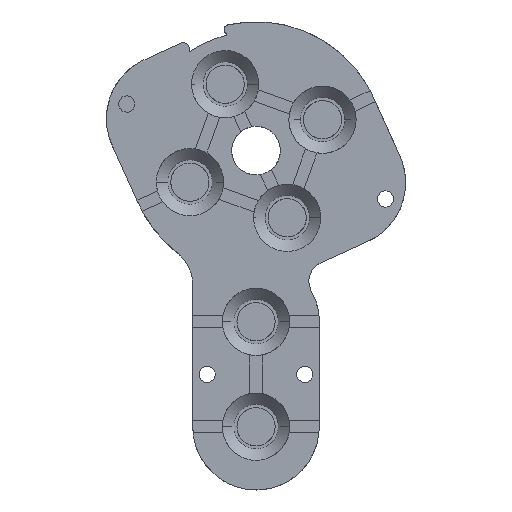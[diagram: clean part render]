
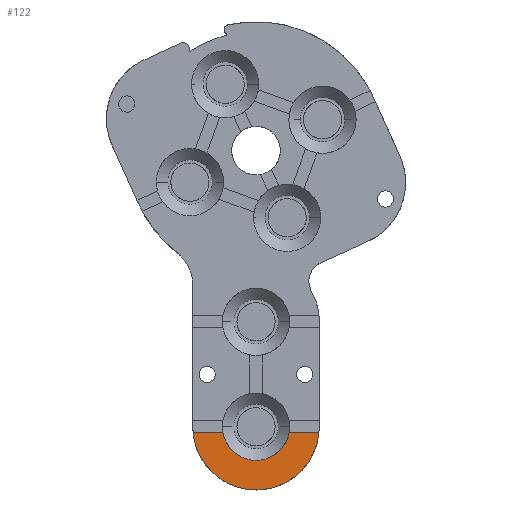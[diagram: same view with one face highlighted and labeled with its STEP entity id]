
A CAD part, top view. The second image highlights one B-rep face of the part: STEP entity #122.
In plain terms, the highlighted planar face has unit normal (0, 0, 1).
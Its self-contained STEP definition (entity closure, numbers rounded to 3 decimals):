
#122=ADVANCED_FACE('',(#296),#2613,.T.);
#296=FACE_OUTER_BOUND('',#483,.T.);
#483=EDGE_LOOP('',(#946,#947,#948,#949));
#946=ORIENTED_EDGE('',*,*,#1686,.F.);
#947=ORIENTED_EDGE('',*,*,#1644,.F.);
#948=ORIENTED_EDGE('',*,*,#1643,.F.);
#949=ORIENTED_EDGE('',*,*,#1642,.F.);
#1642=EDGE_CURVE('',#2482,#2483,#2230,.T.);
#1643=EDGE_CURVE('',#2483,#2484,#2015,.T.);
#1644=EDGE_CURVE('',#2484,#2485,#2231,.T.);
#1686=EDGE_CURVE('',#2485,#2482,#2024,.T.);
#2015=(
BOUNDED_CURVE()
B_SPLINE_CURVE(2,(#5280,#5281,#5282,#5283,#5284),.UNSPECIFIED.,.F.,.F.)
B_SPLINE_CURVE_WITH_KNOTS((3,2,3),(0.,14.166,28.331),
 .UNSPECIFIED.)
CURVE()
GEOMETRIC_REPRESENTATION_ITEM()
RATIONAL_B_SPLINE_CURVE((1.,0.74,1.,0.74,1.))
REPRESENTATION_ITEM('')
);
#2024=(
BOUNDED_CURVE()
B_SPLINE_CURVE(2,(#5370,#5371,#5372,#5373,#5374),.UNSPECIFIED.,.F.,.F.)
B_SPLINE_CURVE_WITH_KNOTS((3,2,3),(-13.828,-6.914,
0.),.UNSPECIFIED.)
CURVE()
GEOMETRIC_REPRESENTATION_ITEM()
RATIONAL_B_SPLINE_CURVE((1.,0.768,1.,0.768,1.))
REPRESENTATION_ITEM('')
);
#2230=B_SPLINE_CURVE_WITH_KNOTS('',1,(#5278,#5279),.UNSPECIFIED.,.F.,.F.,
(2,2),(0.,3.682),.UNSPECIFIED.);
#2231=B_SPLINE_CURVE_WITH_KNOTS('',1,(#5285,#5286),.UNSPECIFIED.,.F.,.F.,
(2,2),(0.,3.682),.UNSPECIFIED.);
#2482=VERTEX_POINT('',#4508);
#2483=VERTEX_POINT('',#4509);
#2484=VERTEX_POINT('',#4510);
#2485=VERTEX_POINT('',#4511);
#2613=PLANE('',#2901);
#2901=AXIS2_PLACEMENT_3D('',#3511,#3026,$);
#3026=DIRECTION('',(0.,0.,1.));
#3511=CARTESIAN_POINT('',(9.329,-42.567,5.2));
#4508=CARTESIAN_POINT('',(4.082,-34.8,5.2));
#4509=CARTESIAN_POINT('',(7.764,-34.8,5.2));
#4510=CARTESIAN_POINT('',(-7.764,-34.8,5.2));
#4511=CARTESIAN_POINT('',(-4.082,-34.8,5.2));
#5278=CARTESIAN_POINT('',(4.082,-34.8,5.2));
#5279=CARTESIAN_POINT('',(7.764,-34.8,5.2));
#5280=CARTESIAN_POINT('',(7.764,-34.8,5.2));
#5281=CARTESIAN_POINT('',(7.083,-41.85,5.2));
#5282=CARTESIAN_POINT('',(0.,-41.85,5.2));
#5283=CARTESIAN_POINT('',(-7.083,-41.85,5.2));
#5284=CARTESIAN_POINT('',(-7.764,-34.8,5.2));
#5285=CARTESIAN_POINT('',(-7.764,-34.8,5.2));
#5286=CARTESIAN_POINT('',(-4.082,-34.8,5.2));
#5370=CARTESIAN_POINT('',(-4.082,-34.8,5.2));
#5371=CARTESIAN_POINT('',(-3.457,-38.2,5.2));
#5372=CARTESIAN_POINT('',(0.,-38.2,5.2));
#5373=CARTESIAN_POINT('',(3.457,-38.2,5.2));
#5374=CARTESIAN_POINT('',(4.082,-34.8,5.2));
